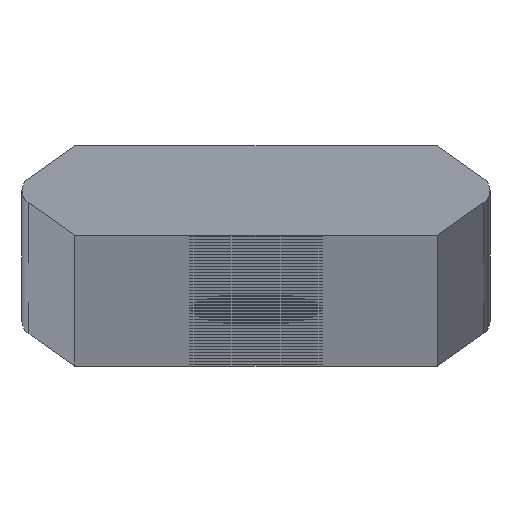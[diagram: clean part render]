
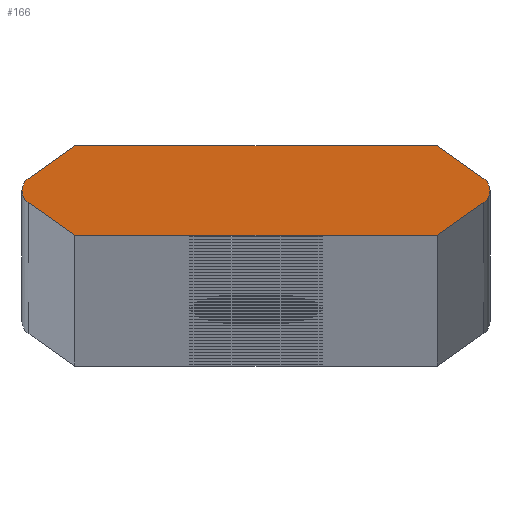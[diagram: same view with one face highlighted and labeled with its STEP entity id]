
A CAD part, top view. The second image highlights one B-rep face of the part: STEP entity #166.
In plain terms, the highlighted planar face has unit normal (0, 0, 1).
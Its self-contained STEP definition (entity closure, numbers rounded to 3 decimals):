
#166=ADVANCED_FACE('',(#358),#359,.T.);
#358=FACE_OUTER_BOUND('',#646,.T.);
#359=PLANE('',#647);
#646=EDGE_LOOP('',(#1389,#1390,#1391,#1392,#1393,#1394,#1395,#1396,#1397,#1398));
#647=AXIS2_PLACEMENT_3D('',#1399,#1400,#1401);
#1389=ORIENTED_EDGE('',*,*,#1645,.T.);
#1390=ORIENTED_EDGE('',*,*,#1914,.T.);
#1391=ORIENTED_EDGE('',*,*,#1915,.F.);
#1392=ORIENTED_EDGE('',*,*,#1916,.F.);
#1393=ORIENTED_EDGE('',*,*,#1917,.F.);
#1394=ORIENTED_EDGE('',*,*,#1641,.T.);
#1395=ORIENTED_EDGE('',*,*,#1918,.T.);
#1396=ORIENTED_EDGE('',*,*,#1919,.F.);
#1397=ORIENTED_EDGE('',*,*,#1920,.F.);
#1398=ORIENTED_EDGE('',*,*,#1921,.F.);
#1399=CARTESIAN_POINT('',(0.,0.,3956.0));
#1400=DIRECTION('',(0.0,0.0,1.0));
#1401=DIRECTION('',(1.0,0.0,0.0));
#1641=EDGE_CURVE('',#1937,#1934,#1938,.T.);
#1645=EDGE_CURVE('',#1945,#1942,#1946,.T.);
#1914=EDGE_CURVE('',#1942,#2392,#2394,.T.);
#1915=EDGE_CURVE('',#2395,#2392,#2396,.T.);
#1916=EDGE_CURVE('',#2397,#2395,#2398,.T.);
#1917=EDGE_CURVE('',#1937,#2397,#2399,.T.);
#1918=EDGE_CURVE('',#1934,#2400,#2401,.T.);
#1919=EDGE_CURVE('',#2402,#2400,#2403,.T.);
#1920=EDGE_CURVE('',#2404,#2402,#2405,.T.);
#1921=EDGE_CURVE('',#1945,#2404,#2406,.T.);
#1934=VERTEX_POINT('',#2424);
#1937=VERTEX_POINT('',#2428);
#1938=CIRCLE('',#2429,0.76);
#1942=VERTEX_POINT('',#2434);
#1945=VERTEX_POINT('',#2438);
#1946=CIRCLE('',#2439,0.76);
#2392=VERTEX_POINT('',#2974);
#2394=CIRCLE('',#2977,0.76);
#2395=VERTEX_POINT('',#2978);
#2396=LINE('',#2979,#2980);
#2397=VERTEX_POINT('',#2981);
#2398=LINE('',#2982,#2983);
#2399=LINE('',#2984,#2985);
#2400=VERTEX_POINT('',#2986);
#2401=CIRCLE('',#2987,0.76);
#2402=VERTEX_POINT('',#2988);
#2403=LINE('',#2989,#2990);
#2404=VERTEX_POINT('',#2991);
#2405=LINE('',#2992,#2993);
#2406=LINE('',#2994,#2995);
#2424=CARTESIAN_POINT('',(12.34,0.,3956.0));
#2428=CARTESIAN_POINT('',(12.019,-0.62,3956.0));
#2429=AXIS2_PLACEMENT_3D('',#3025,#3026,#3027);
#2434=CARTESIAN_POINT('',(-12.34,0.,3956.0));
#2438=CARTESIAN_POINT('',(-12.019,0.62,3956.0));
#2439=AXIS2_PLACEMENT_3D('',#3033,#3034,#3035);
#2974=CARTESIAN_POINT('',(-12.019,-0.62,3956.0));
#2977=AXIS2_PLACEMENT_3D('',#3660,#3661,#3662);
#2978=CARTESIAN_POINT('',(-9.549,-2.35,3956.0));
#2979=CARTESIAN_POINT('',(-12.905,0.,3956.0));
#2980=VECTOR('',#3663,1.0);
#2981=CARTESIAN_POINT('',(9.549,-2.35,3956.0));
#2982=CARTESIAN_POINT('',(9.549,-2.35,3956.0));
#2983=VECTOR('',#3664,1.0);
#2984=CARTESIAN_POINT('',(12.905,0.0,3956.0));
#2985=VECTOR('',#3665,1.0);
#2986=CARTESIAN_POINT('',(12.019,0.62,3956.0));
#2987=AXIS2_PLACEMENT_3D('',#3666,#3667,#3668);
#2988=CARTESIAN_POINT('',(9.549,2.35,3956.0));
#2989=CARTESIAN_POINT('',(12.905,0.0,3956.0));
#2990=VECTOR('',#3669,1.0);
#2991=CARTESIAN_POINT('',(-9.549,2.35,3956.0));
#2992=CARTESIAN_POINT('',(-9.549,2.35,3956.0));
#2993=VECTOR('',#3670,1.0);
#2994=CARTESIAN_POINT('',(-12.905,0.,3956.0));
#2995=VECTOR('',#3671,1.0);
#3025=CARTESIAN_POINT('',(11.58,0.0,3956.0));
#3026=DIRECTION('',(0.0,0.0,1.0));
#3027=DIRECTION('',(1.0,0.0,0.0));
#3033=CARTESIAN_POINT('',(-11.58,0.,3956.0));
#3034=DIRECTION('',(0.0,0.0,1.0));
#3035=DIRECTION('',(-1.0,0.,0.0));
#3660=CARTESIAN_POINT('',(-11.58,0.,3956.0));
#3661=DIRECTION('',(0.0,0.0,1.0));
#3662=DIRECTION('',(-1.0,0.,0.0));
#3663=DIRECTION('',(-0.819,0.574,0.0));
#3664=DIRECTION('',(-1.0,0.,0.0));
#3665=DIRECTION('',(-0.819,-0.574,0.0));
#3666=CARTESIAN_POINT('',(11.58,0.0,3956.0));
#3667=DIRECTION('',(0.0,0.0,1.0));
#3668=DIRECTION('',(1.0,0.0,0.0));
#3669=DIRECTION('',(0.819,-0.574,0.0));
#3670=DIRECTION('',(1.0,0.,0.0));
#3671=DIRECTION('',(0.819,0.574,0.0));
